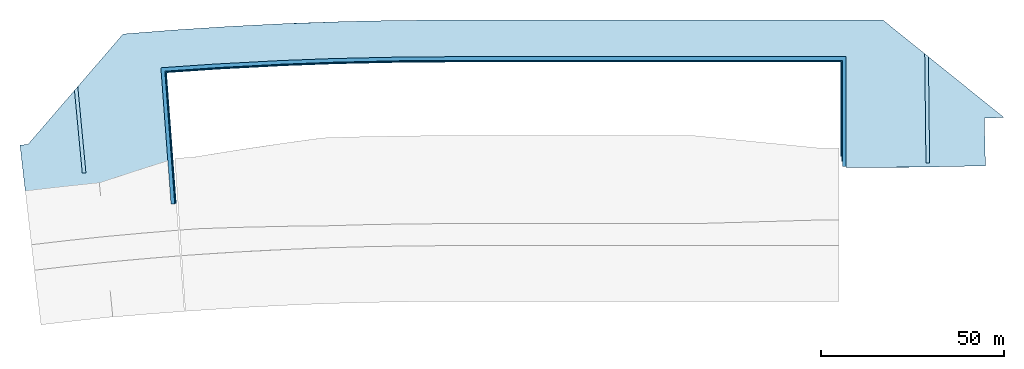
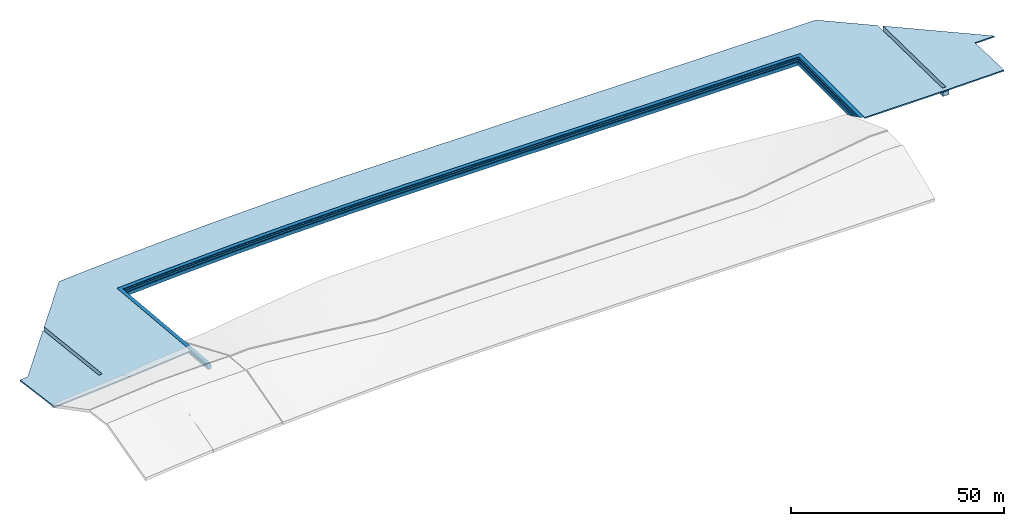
# One storey, incomplete: 2 slabs.
"""IFC2X3 building model written with IfcOpenShell, lengths in millimetres."""

from ifc_helpers import new_model, entity, si_unit, converted_unit, derived_unit, direction, frame, origin, place, context, subcontext, project, spatial, faceted_brep, type_object, element, save


model = new_model("IFC2X3")

# Units and contexts
model_context = context("Model", 3, precision=0.01, world=origin(), true_north=direction((6.12303176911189e-17, 1.0)))
body_context = subcontext(model_context, "Body", "Model", "MODEL_VIEW")
ifc_project = project(units=[si_unit("LENGTHUNIT", "METRE", prefix="MILLI"), si_unit("AREAUNIT", "SQUARE_METRE"), si_unit("VOLUMEUNIT", "CUBIC_METRE"), converted_unit("PLANEANGLEUNIT", "DEGREE", entity("IfcRatioMeasure", 0.0174532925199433), si_unit("PLANEANGLEUNIT", "RADIAN"), dimensions=[0, 0, 0, 0, 0, 0, 0]), si_unit("MASSUNIT", "GRAM", prefix="KILO"), derived_unit("MASSDENSITYUNIT", [(si_unit("MASSUNIT", "GRAM", prefix="KILO"), 1), (si_unit("LENGTHUNIT", "METRE"), -3)]), derived_unit("MOMENTOFINERTIAUNIT", [(si_unit("LENGTHUNIT", "METRE"), 4)]), si_unit("TIMEUNIT", "SECOND"), si_unit("FREQUENCYUNIT", "HERTZ"), si_unit("THERMODYNAMICTEMPERATUREUNIT", "DEGREE_CELSIUS"), derived_unit("THERMALTRANSMITTANCEUNIT", [(si_unit("MASSUNIT", "GRAM", prefix="KILO"), 1), (si_unit("THERMODYNAMICTEMPERATUREUNIT", "KELVIN"), -1), (si_unit("TIMEUNIT", "SECOND"), -3)]), derived_unit("VOLUMETRICFLOWRATEUNIT", [(si_unit("LENGTHUNIT", "METRE"), 3), (si_unit("TIMEUNIT", "SECOND"), -1)]), si_unit("ELECTRICCURRENTUNIT", "AMPERE"), si_unit("ELECTRICVOLTAGEUNIT", "VOLT"), si_unit("POWERUNIT", "WATT"), si_unit("FORCEUNIT", "NEWTON", prefix="KILO"), si_unit("ILLUMINANCEUNIT", "LUX"), si_unit("LUMINOUSFLUXUNIT", "LUMEN"), si_unit("LUMINOUSINTENSITYUNIT", "CANDELA"), derived_unit("USERDEFINED", [(si_unit("MASSUNIT", "GRAM", prefix="KILO"), -1), (si_unit("LENGTHUNIT", "METRE"), -2), (si_unit("TIMEUNIT", "SECOND"), 3), (si_unit("LUMINOUSFLUXUNIT", "LUMEN"), 1)]), derived_unit("LINEARVELOCITYUNIT", [(si_unit("LENGTHUNIT", "METRE"), 1), (si_unit("TIMEUNIT", "SECOND"), -1)]), si_unit("PRESSUREUNIT", "PASCAL"), derived_unit("USERDEFINED", [(si_unit("LENGTHUNIT", "METRE"), -2), (si_unit("MASSUNIT", "GRAM", prefix="KILO"), 1), (si_unit("TIMEUNIT", "SECOND"), -2)]), derived_unit("LINEARFORCEUNIT", [(si_unit("MASSUNIT", "GRAM", prefix="KILO"), 1), (si_unit("LENGTHUNIT", "METRE"), 1), (si_unit("TIMEUNIT", "SECOND"), -2), (si_unit("LENGTHUNIT", "METRE"), -1)]), derived_unit("PLANARFORCEUNIT", [(si_unit("MASSUNIT", "GRAM", prefix="KILO"), 1), (si_unit("LENGTHUNIT", "METRE"), 1), (si_unit("TIMEUNIT", "SECOND"), -2), (si_unit("LENGTHUNIT", "METRE"), -2)])], contexts=[model_context])

# Site, building, storey
site_placement = place(None, origin())
site = spatial("IfcSite", under=ifc_project, at=site_placement, Name="Default", CompositionType="ELEMENT")
building_placement = place(site_placement, origin())
building = spatial("IfcBuilding", under=site, at=building_placement, CompositionType="ELEMENT")
storey_placement = place(building_placement, origin())
storey = spatial("IfcBuildingStorey", under=building, at=storey_placement, Name="DL", CompositionType="ELEMENT", Elevation=0.0)

# Slabs
slab_type_1 = type_object("IfcSlabType", Name="かごマット段:かごマット", PredefinedType="BASESLAB")
slab_1_placement = place(storey_placement, frame((-95263.9551824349, 11343.3436316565, 9000.0)))
element("IfcSlab", 1, at=slab_1_placement, inside=storey, type_object=slab_type_1, Name="かごマット段:かごマット", ObjectType="かごマット段:かごマット", PredefinedType="BASESLAB", context=body_context, shape_type="Brep", body=[
    faceted_brep([(3766.62328759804, 74.3258104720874, 1500.0), (3766.62328759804, 74.3258104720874, 2000.0), (2769.38927599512, 0.0, 2000.0), (2769.38927599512, 0.0, 1500.0), (3018.69777889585, 18.5814526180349, 1500.0), (3018.69777889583, 18.5814526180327, 1000.0), (3268.00628179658, 37.1629052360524, 1000.0), (3268.0062817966, 37.1629052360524, 0.0), (4265.2402933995, 111.488715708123, 0.0), (4265.24029339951, 111.488715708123, 1000.0), (4015.93179049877, 92.907263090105, 1000.0), (4015.93179049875, 92.9072630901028, 1500.0), (1340.96774014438, 35983.0659291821, 1000.0), (1340.96774014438, 35983.0659291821, 1500.0), (1073.08441717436, 36213.7039901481, 1500.0), (1073.08441717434, 36213.7039901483, 2000.0), (1.59527223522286, 37135.6639117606, 2000.0), (1.59527223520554, 37135.6639117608, 1500.0), (269.460942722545, 36905.2626952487, 1500.0), (269.46094272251, 36905.2626952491, 1000.0), (537.331021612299, 36674.802330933, 1000.0), (537.331021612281, 36674.8023309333, 0.0), (1608.85548411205, 35752.3685514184, 0.0), (1608.85548411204, 35752.3685514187, 1000.0), (79650.9564797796, 38906.6563683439, 1000.0), (70705.3352696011, 38845.9614683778, 1000.0), (65399.9876838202, 38809.965361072, 1000.0), (56495.1309349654, 38613.5770090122, 1000.0), (47590.2741861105, 38417.1886569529, 1000.0), (40469.5864407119, 38151.3480541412, 1000.0), (33348.8986953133, 37885.5074513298, 1000.0), (24454.1871351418, 37417.3746028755, 1000.0), (15559.4755749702, 36949.2417544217, 1000.0), (8450.22165755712, 36466.1538418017, 1000.0), (8693.85207537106, 36232.267889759, 1000.0), (15778.8486666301, 36712.1672281, 1000.0), (24643.1590021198, 37177.2093165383, 1000.0), (33507.4693376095, 37642.2514049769, 1000.0), (40603.7880424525, 37906.3364526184, 1000.0), (47700.1067472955, 38170.42150026, 1000.0), (56574.463133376, 38365.5127628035, 1000.0), (65448.8195194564, 38560.6040253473, 1000.0), (72549.887999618, 38608.6301968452, 1000.0), (79650.9564797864, 38656.6563683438, 1000.0), (185267.955182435, 38656.6563683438, 1000.0), (185267.955182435, 12942.1190279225, 1000.0), (185517.955182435, 12942.1190279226, 1000.0), (185517.955182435, 38906.6563683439, 1000.0), (8450.22165755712, 36466.1538418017, 1500.0), (15559.4755749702, 36949.2417544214, 1500.0), (24454.1871351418, 37417.3746028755, 1500.0), (33348.8986953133, 37885.5074513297, 1500.0), (65399.9876838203, 38809.9653610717, 1500.0), (56495.1309349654, 38613.5770090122, 1500.0), (47590.2741861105, 38417.1886569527, 1500.0), (40469.5864407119, 38151.3480541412, 1500.0), (79650.9564797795, 38906.6563683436, 1500.0), (72525.4720817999, 38858.3108647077, 1500.0), (79650.9564797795, 39156.6563683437, 1500.0), (70704.2723577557, 39095.7607347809, 1500.0), (65351.1558722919, 39059.3247306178, 1500.0), (56415.7988976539, 38861.6352971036, 1500.0), (47480.441923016, 38663.9458635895, 1500.0), (40335.3854416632, 38396.3443058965, 1500.0), (33190.3289603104, 38128.7427482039, 1500.0), (24265.2169309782, 37657.5096421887, 1500.0), (15340.104901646, 37186.2765361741, 1500.0), (8206.59465941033, 36699.990263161, 1500.0), (185517.955182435, 38906.6563683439, 1500.0), (185517.955182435, 11605.7383521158, 1500.0), (185767.955182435, 11605.7383521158, 1500.0), (185767.955182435, 39156.6563683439, 1500.0), (8206.59465941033, 36699.990263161, 2000.0), (15340.104901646, 37186.2765361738, 2000.0), (33190.3289603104, 38128.7427482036, 2000.0), (24265.2169309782, 37657.5096421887, 2000.0), (65351.1558722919, 39059.3247306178, 2000.0), (56415.7988976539, 38861.6352971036, 2000.0), (47480.441923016, 38663.9458635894, 2000.0), (40335.3854416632, 38396.3443058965, 2000.0), (79650.9564797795, 39156.6563683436, 2000.0), (72501.0561760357, 39107.9905494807, 2000.0), (79650.9564797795, 40156.6563683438, 2000.0), (72403.3926485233, 40106.6994713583, 2000.0), (65155.8288172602, 40056.7425743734, 2000.0), (56098.4722841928, 39853.8089514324, 2000.0), (47041.1157511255, 39650.8753284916, 2000.0), (39798.5873614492, 39376.176030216, 2000.0), (32556.0589717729, 39101.4767319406, 2000.0), (23509.3526263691, 38617.747755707, 2000.0), (14462.6462809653, 38134.0187794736, 2000.0), (7232.12077660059, 37634.8413456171, 2000.0), (185767.955182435, 39156.6563683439, 2000.0), (185767.955182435, 10269.3576763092, 2000.0), (186767.955182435, 10269.3576763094, 2000.0), (186767.955182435, 40156.656368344, 2000.0), (14462.6462809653, 38134.0187794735, 1500.0), (7232.12077660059, 37634.8413456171, 1500.0), (32556.0589717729, 39101.4767319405, 1500.0), (23509.3526263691, 38617.747755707, 1500.0), (65155.8288172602, 40056.7425743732, 1500.0), (56098.4722841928, 39853.8089514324, 1500.0), (47041.1157511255, 39650.8753284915, 1500.0), (39798.5873614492, 39376.176030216, 1500.0), (79650.9564797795, 40156.6563683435, 1500.0), (70700.0221368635, 40094.9582701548, 1500.0), (186767.955182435, 40156.656368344, 1500.0), (186767.955182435, 11605.738352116, 1500.0), (186517.955182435, 11605.7383521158, 1500.0), (186517.955182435, 39906.6563683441, 1500.0), (79650.9564797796, 39906.6563683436, 1500.0), (72427.8085185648, 39857.0237121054, 1500.0), (65204.6605573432, 39807.3910558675, 1500.0), (56177.8037146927, 39605.7744542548, 1500.0), (47150.9468720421, 39404.1578526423, 1500.0), (39932.7860051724, 39131.2410700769, 1500.0), (32714.6251383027, 38858.3242875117, 1500.0), (23698.3162372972, 38377.7334913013, 1500.0), (14682.0073362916, 37897.1426950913, 1500.0), (7475.73413950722, 37401.2026951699, 1500.0), (14682.0073362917, 37897.1426950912, 1000.0), (7475.73413950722, 37401.2026951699, 1000.0), (32714.6251383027, 38858.3242875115, 1000.0), (23698.3162372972, 38377.7334913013, 1000.0), (47150.9468720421, 39404.1578526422, 1000.0), (65204.6605573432, 39807.3910558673, 1000.0), (56177.8037146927, 39605.7744542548, 1000.0), (39932.7860051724, 39131.2410700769, 1000.0), (79650.9564797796, 39906.6563683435, 1000.0), (70701.0845217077, 39845.158816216, 1000.0), (186517.955182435, 39906.6563683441, 1000.0), (186517.955182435, 12942.1190279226, 1000.0), (186267.955182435, 12942.1190279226, 1000.0), (186267.955182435, 39656.6563683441, 1000.0), (79650.9564797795, 39656.6563683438, 1000.0), (72452.224395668, 39607.3469724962, 1000.0), (65253.4923115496, 39558.0375766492, 1000.0), (56257.1352912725, 39357.7340155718, 1000.0), (47260.7782709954, 39157.4304544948, 1000.0), (40066.9852294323, 38886.2908031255, 1000.0), (32873.1921878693, 38615.1511517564, 1000.0), (23887.2814878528, 38137.6890650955, 1000.0), (14901.3707878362, 37660.2269784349, 1000.0), (7719.35090472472, 37167.5146546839, 1000.0), (14901.3707878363, 37660.2269784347, 0.0), (7719.35090472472, 37167.5146546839, 0.0), (65253.4923115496, 39558.037576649, 0.0), (79650.9564797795, 39656.6563683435, 0.0), (70702.1470486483, 39595.3594091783, 0.0), (32873.1921878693, 38615.1511517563, 0.0), (23887.2814878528, 38137.6890650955, 0.0), (47260.7782709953, 39157.4304544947, 0.0), (40066.9852294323, 38886.2908031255, 0.0), (56257.1352912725, 39357.7340155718, 0.0), (186267.955182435, 39656.6563683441, 0.0), (186267.955182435, 15570.4631264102, 0.0), (185267.955182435, 15570.4631264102, 0.0), (185267.955182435, 38656.6563683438, 0.0), (79650.9564797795, 38656.6563683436, 0.0), (70706.3983236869, 38596.1622490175, 0.0), (65448.8195194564, 38560.6040253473, 0.0), (56574.463133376, 38365.5127628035, 0.0), (47700.1067472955, 38170.42150026, 0.0), (40603.7880424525, 37906.3364526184, 0.0), (33507.4693376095, 37642.2514049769, 0.0), (24643.1590021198, 37177.2093165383, 0.0), (15778.8486666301, 36712.1672281, 0.0), (8693.85207537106, 36232.267889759, 0.0), (186267.955182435, 15570.46312641, 16.6184882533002), (185267.955182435, 15570.46312641, 16.6184882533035)], [[[0, 1, 2, 3, 4, 5, 6, 7, 8, 9, 10, 11]], [[11, 10, 12, 13]], [[1, 0, 14, 15]], [[3, 2, 16, 17]], [[5, 4, 18, 19]], [[7, 6, 20, 21]], [[9, 8, 22, 23]], [[24, 25, 26, 27, 28, 29, 30, 31, 32, 33, 12, 10, 9, 23, 34, 35, 36, 37, 38, 39, 40, 41, 42, 43, 44, 45, 46, 47]], [[48, 13, 12, 33, 32, 49]], [[50, 49, 32, 31, 30, 51]], [[27, 26, 52, 53, 54, 28]], [[54, 55, 51, 30, 29, 28]], [[24, 56, 57, 52, 26, 25]], [[58, 59, 60, 61, 62, 63, 64, 65, 66, 67, 14, 0, 11, 13, 48, 49, 50, 51, 55, 54, 53, 52, 57, 56, 68, 69, 70, 71]], [[72, 15, 14, 67, 66, 73]], [[74, 75, 73, 66, 65, 64]], [[61, 60, 76, 77, 78, 62]], [[78, 79, 74, 64, 63, 62]], [[58, 80, 81, 76, 60, 59]], [[82, 83, 84, 85, 86, 87, 88, 89, 90, 91, 16, 2, 1, 15, 72, 73, 75, 74, 79, 78, 77, 76, 81, 80, 92, 93, 94, 95]], [[90, 96, 97, 17, 16, 91]], [[98, 99, 96, 90, 89, 88]], [[84, 100, 101, 102, 86, 85]], [[103, 98, 88, 87, 86, 102]], [[83, 82, 104, 105, 100, 84]], [[104, 106, 107, 108, 109, 110, 111, 112, 113, 114, 115, 116, 117, 118, 119, 18, 4, 3, 17, 97, 96, 99, 98, 103, 102, 101, 100, 105]], [[118, 120, 121, 19, 18, 119]], [[120, 118, 117, 116, 122, 123]], [[124, 114, 113, 112, 125, 126]], [[127, 122, 116, 115, 114, 124]], [[111, 110, 128, 129, 125, 112]], [[128, 130, 131, 132, 133, 134, 135, 136, 137, 138, 139, 140, 141, 142, 143, 20, 6, 5, 19, 121, 120, 123, 122, 127, 124, 126, 125, 129]], [[20, 143, 142, 144, 145, 21]], [[146, 136, 135, 134, 147, 148]], [[144, 142, 141, 140, 149, 150]], [[138, 151, 152, 149, 140, 139]], [[136, 146, 153, 151, 138, 137]], [[147, 154, 155, 156, 157, 158, 159, 160, 161, 162, 163, 164, 165, 166, 167, 22, 8, 7, 21, 145, 144, 150, 149, 152, 151, 153, 146, 148]], [[22, 167, 166, 35, 34, 23]], [[159, 158, 43, 42, 41, 160]], [[36, 35, 166, 165, 164, 37]], [[163, 162, 39, 38, 37, 164]], [[161, 160, 41, 40, 39, 162]], [[56, 24, 47, 68]], [[80, 58, 71, 92]], [[104, 82, 95, 106]], [[128, 110, 109, 130]], [[147, 134, 133, 154]], [[43, 158, 157, 44]], [[68, 47, 46, 69]], [[92, 71, 70, 93]], [[106, 95, 94, 107]], [[130, 109, 108, 131]], [[154, 133, 132, 168, 155]], [[44, 157, 156, 169, 45]], [[156, 155, 168, 169]], [[46, 45, 169, 168, 132, 131, 108, 107, 94, 93, 70, 69]]]),
])
slab_type_2 = type_object("IfcSlabType", Name="かごマット2:かごマット", PredefinedType="BASESLAB")
slab_2_placement = place(storey_placement, frame((-133657.273926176, 13859.2349772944, 9150.0)))
element("IfcSlab", 2, at=slab_2_placement, inside=storey, type_object=slab_type_2, Name="かごマット2:かごマット", ObjectType="かごマット2:かごマット", PredefinedType="BASESLAB", context=body_context, shape_type="Brep", body=[
    faceted_brep([(247881.889677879, 37399.4155009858, 0.0), (248215.8655025, 7923.4414373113, 0.0), (246616.968766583, 7923.44143731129, 0.0), (246254.740061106, 38709.4313268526, 0.0), (246254.740061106, 38709.4313268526, 1500.0), (246616.968766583, 7923.44143731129, 1500.0), (248215.8655025, 7923.4414373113, 1500.0), (247881.889677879, 37399.4155009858, 1500.0), (247579.108413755, 37643.1842630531, 1500.0), (247906.995041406, 8704.62937386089, 1500.0), (246906.930854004, 8704.62937386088, 1500.0), (246569.837533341, 38455.7468032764, 1500.0), (246569.837533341, 38455.7468032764, 350.0), (247579.108413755, 37643.1842630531, 350.0), (246906.930854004, 8704.62937386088, 350.0), (247906.995041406, 8704.62937386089, 350.0)], [[[0, 1, 2, 3]], [[4, 5, 6, 7, 8, 9, 10, 11]], [[1, 0, 7, 6]], [[2, 1, 6, 5]], [[3, 2, 5, 4]], [[0, 3, 4, 11, 12, 13, 8, 7]], [[14, 15, 13, 12]], [[13, 15, 9, 8]], [[15, 14, 10, 9]], [[14, 12, 11, 10]]]),
    faceted_brep([(16020.1635110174, 29802.1183130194, 0.0), (18305.1184723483, 5667.67882561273, 0.0), (16710.5327610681, 5534.9194213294, 0.0), (14563.2398140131, 28110.541474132, 0.0), (14563.2398140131, 28110.541474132, 1500.0), (16710.5327610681, 5534.9194213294, 1500.0), (18305.1184723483, 5667.67882561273, 1500.0), (16020.1635110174, 29802.1183130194, 1500.0), (15748.6662362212, 29486.8934986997, 1500.0), (17973.2876814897, 5989.71628434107, 1500.0), (16976.6716119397, 5906.741656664, 1500.0), (14843.6753202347, 28436.1441176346, 1500.0), (14843.6753202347, 28436.1441176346, 350.0), (15748.6662362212, 29486.8934986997, 350.0), (16976.6716119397, 5906.741656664, 350.0), (17973.2876814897, 5989.71628434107, 350.0)], [[[0, 1, 2, 3]], [[4, 5, 6, 7, 8, 9, 10, 11]], [[1, 0, 7, 6]], [[2, 1, 6, 5]], [[3, 2, 5, 4]], [[0, 3, 4, 11, 12, 13, 8, 7]], [[14, 15, 13, 12]], [[13, 15, 9, 8]], [[15, 14, 10, 9]], [[14, 12, 11, 10]]]),
    faceted_brep([(2215.05116020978, 13773.54498493, 1850.0), (14843.6753202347, 28436.1441176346, 1850.0), (14843.6753202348, 28436.1441176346, 1500.0), (2215.05116021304, 13773.5449849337, 1500.0), (15748.6662362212, 29486.8934986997, 1850.0), (28096.028387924, 43822.9303687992, 1850.0), (28096.028387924, 43822.9303687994, 1500.0), (15748.6662362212, 29486.8934986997, 1500.0), (247579.108413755, 37643.184263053, 1850.0), (268178.376068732, 21058.7433787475, 1850.0), (268178.376068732, 21058.7433787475, 1500.0), (247579.108413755, 37643.1842630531, 1500.0), (235161.273926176, 47640.7650227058, 1850.0), (246569.837533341, 38455.7468032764, 1850.0), (246569.837533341, 38455.7468032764, 1500.0), (235161.273926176, 47640.7650227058, 1500.0), (37062.2596039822, 44524.1833820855, 1500.0), (42461.0485327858, 44946.4251147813, 1500.0), (49650.5219251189, 45410.6270025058, 1500.0), (56839.9953174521, 45874.8288902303, 1500.0), (65834.6110242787, 46317.7793214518, 1500.0), (74829.2267311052, 46760.7297526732, 1500.0), (82029.5225942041, 47005.1689792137, 1500.0), (89229.8184573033, 47249.6082057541, 1500.0), (96432.7689342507, 47396.28975973, 1500.0), (103635.719411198, 47542.9713137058, 1500.0), (110839.997317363, 47591.8681682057, 1500.0), (118044.275223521, 47640.7650227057, 1500.0), (246906.930854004, 8704.62937386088, 1500.0), (247906.995041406, 8704.62937386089, 1500.0), (265494.966599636, 20985.1708619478, 1500.0), (262811.426881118, 20916.513210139, 1500.0), (263132.634296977, 7895.50150433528, 1500.0), (252675.624791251, 7702.49802975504, 1500.0), (242218.615285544, 7509.49455517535, 1500.0), (236080.800729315, 7474.64129672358, 1500.0), (225484.76973183, 7414.4722897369, 1500.0), (225161.273926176, 7414.47228973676, 1500.0), (225161.273926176, 36390.765022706, 1500.0), (118044.275223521, 36390.765022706, 1500.0), (109093.340286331, 36329.1388217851, 1500.0), (103566.038203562, 36291.0839558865, 1500.0), (94519.2309953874, 36088.6229842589, 1500.0), (85472.4237872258, 35886.1620126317, 1500.0), (78238.3231369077, 35612.1024179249, 1500.0), (71004.2224866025, 35338.0428232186, 1500.0), (61968.0282835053, 34855.4400561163, 1500.0), (52931.8340804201, 34372.8372890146, 1500.0), (45709.694416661, 33874.821669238, 1500.0), (38487.5547529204, 33376.8060494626, 1500.0), (40690.4425825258, 3820.52333309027, 1500.0), (33582.9987144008, 3044.64522101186, 1500.0), (26475.5548462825, 2268.76710893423, 1500.0), (19358.559662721, 1586.0338223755, 1500.0), (12241.5644791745, 903.30053581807, 1500.0), (6099.5553998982, 385.053157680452, 1500.0), (1555.00406539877, 1.59527223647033, 1500.0), (1.5952722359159, 13521.6414798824, 1500.0), (1108.25538490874, 13648.1892607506, 1500.0), (16976.6716119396, 5906.741656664, 1500.0), (17973.2876814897, 5989.71628434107, 1500.0), (118044.275223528, 47640.7650227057, 1850.0), (109050.870299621, 47579.7250104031, 1850.0), (103635.719411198, 47542.9713137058, 1850.0), (96432.7689342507, 47396.28975973, 1850.0), (89229.8184573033, 47249.6082057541, 1850.0), (80230.0188982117, 46928.7894186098, 1850.0), (71230.2193391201, 46607.9706314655, 1850.0), (64035.1073282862, 46241.3997608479, 1850.0), (56839.9953174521, 45874.8288902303, 1850.0), (49650.5219251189, 45410.6270025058, 1850.0), (42461.0485327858, 44946.4251147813, 1850.0), (35278.5384603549, 44384.6777417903, 1850.0), (17973.2876814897, 5989.71628434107, 1850.0), (16976.6716119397, 5906.741656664, 1850.0), (1108.25538490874, 13648.1892607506, 1850.0), (1.59527223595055, 13521.6414798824, 1850.0), (1555.00406539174, 1.5952722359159, 1850.0), (8678.3617766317, 614.392221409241, 1850.0), (15801.7194878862, 1227.18917058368, 1850.0), (22916.4412165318, 1933.22026560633, 1850.0), (30031.162945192, 2639.25136063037, 1850.0), (35360.8027638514, 3229.88734685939, 1850.0), (40690.4425825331, 3820.52333309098, 1850.0), (38487.5547529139, 33376.8060494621, 1850.0), (45709.694416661, 33874.821669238, 1850.0), (52931.8340804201, 34372.8372890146, 1850.0), (61968.0282835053, 34855.4400561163, 1850.0), (71004.2224866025, 35338.0428232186, 1850.0), (78238.3231369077, 35612.1024179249, 1850.0), (85472.4237872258, 35886.1620126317, 1850.0), (94519.2309953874, 36088.6229842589, 1850.0), (103566.038203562, 36291.0839558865, 1850.0), (110805.156713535, 36340.9244892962, 1850.0), (118044.275223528, 36390.765022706, 1850.0), (225161.273926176, 36390.765022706, 1850.0), (225161.273926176, 7414.47228973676, 1850.0), (225484.769731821, 7414.4722897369, 1850.0), (235943.29674116, 7488.70798579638, 1850.0), (246401.823750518, 7562.94368185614, 1850.0), (254767.229023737, 7729.22259309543, 1850.0), (263132.634296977, 7895.50150433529, 1850.0), (262811.426881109, 20916.5132101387, 1850.0), (265494.966599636, 20985.1708619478, 1850.0), (247906.995041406, 8704.62937386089, 1850.0), (246906.930854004, 8704.62937386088, 1850.0)], [[[0, 1, 2, 3]], [[4, 5, 6, 7]], [[8, 9, 10, 11]], [[12, 13, 14, 15]], [[6, 16, 17, 18, 19, 20, 21, 22, 23, 24, 25, 26, 27, 15, 14, 28, 29, 11, 10, 30, 31, 32, 33, 34, 35, 36, 37, 38, 39, 40, 41, 42, 43, 44, 45, 46, 47, 48, 49, 50, 51, 52, 53, 54, 55, 56, 57, 58, 3, 2, 59, 60, 7]], [[13, 12, 61, 62, 63, 64, 65, 66, 67, 68, 69, 70, 71, 72, 5, 4, 73, 74, 1, 0, 75, 76, 77, 78, 79, 80, 81, 82, 83, 84, 85, 86, 87, 88, 89, 90, 91, 92, 93, 94, 95, 96, 97, 98, 99, 100, 101, 102, 103, 9, 8, 104, 105]], [[61, 12, 15, 27]], [[65, 64, 63, 25, 24, 23]], [[69, 68, 19]], [[19, 68, 20]], [[21, 67, 66]], [[25, 63, 62, 61, 27, 26]], [[22, 21, 66]], [[19, 18, 17, 71, 70, 69]], [[16, 6, 5, 72, 71, 17]], [[23, 22, 65]], [[67, 21, 20]], [[20, 68, 67]], [[65, 22, 66]], [[0, 3, 58, 75]], [[58, 57, 76, 75]], [[77, 76, 57, 56]], [[77, 56, 55]], [[54, 78, 55]], [[79, 78, 54]], [[52, 80, 53]], [[50, 83, 82]], [[79, 53, 80]], [[79, 54, 53]], [[82, 81, 51]], [[50, 82, 51]], [[81, 80, 52]], [[51, 81, 52]], [[77, 55, 78]], [[84, 83, 50, 49]], [[87, 86, 47, 46, 45, 88]], [[86, 85, 84, 49, 48, 47]], [[42, 41, 92, 91, 90, 43]], [[90, 89, 88, 45, 44, 43]], [[93, 92, 41, 40, 39, 94]], [[95, 94, 39, 38]], [[96, 95, 38, 37]], [[97, 96, 37, 36]], [[36, 35, 34, 98]], [[98, 34, 99]], [[99, 34, 33]], [[33, 100, 99]], [[32, 100, 33]], [[36, 98, 97]], [[101, 100, 32]], [[102, 101, 32, 31]], [[102, 31, 30, 103]], [[30, 10, 9, 103]], [[4, 7, 60, 73]], [[74, 59, 2, 1]], [[73, 60, 59, 74]], [[8, 11, 29, 104]], [[104, 29, 28, 105]], [[105, 28, 14, 13]]]),
])

save(model, "model.ifc")
